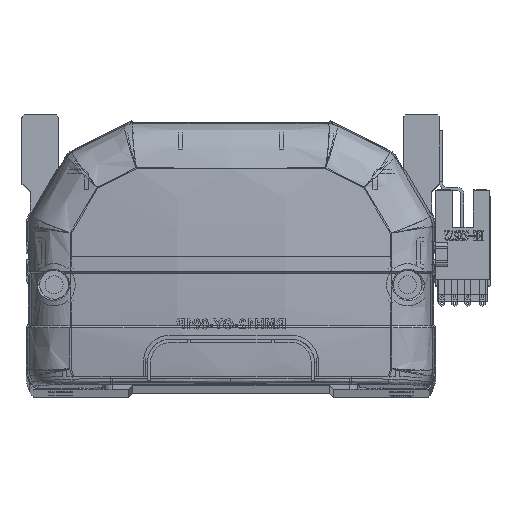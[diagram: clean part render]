
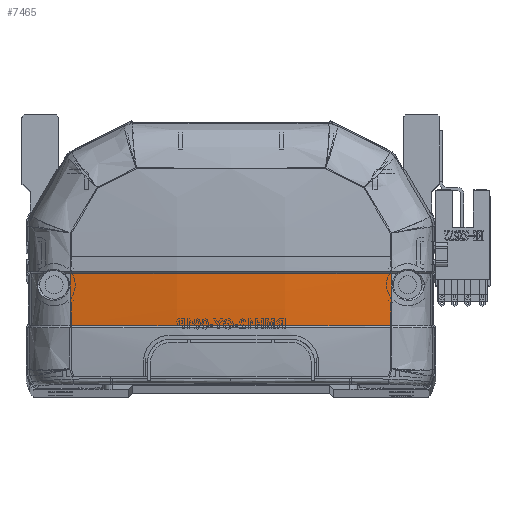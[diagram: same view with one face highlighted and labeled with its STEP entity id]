
A CAD part, top view. The second image highlights one B-rep face of the part: STEP entity #7465.
In plain terms, the highlighted free-form (B-spline) face has degree [3, 3] with [4, 4] control points.
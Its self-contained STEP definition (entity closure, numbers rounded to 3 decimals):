
#368 = ORIENTED_EDGE ( 'NONE', *, *, #58598, .T. ) ;
#923 = CARTESIAN_POINT ( 'NONE',  ( 40.461, 15.757, -5.8 ) ) ;
#1675 = CARTESIAN_POINT ( 'NONE',  ( 39.963, 28.706, -6.372 ) ) ;
#2147 = EDGE_LOOP ( 'NONE', ( #43385, #41953, #368, #2405 ) ) ;
#2405 = ORIENTED_EDGE ( 'NONE', *, *, #29316, .F. ) ;
#3555 = B_SPLINE_CURVE_WITH_KNOTS ( 'NONE', 3,
 ( #13687, #31806, #50347, #50536, #55217, #31204 ),
 .UNSPECIFIED., .F., .F.,
 ( 4, 2, 4 ),
 ( 0., 0.5, 1. ),
 .UNSPECIFIED. ) ;
#5551 = CARTESIAN_POINT ( 'NONE',  ( -26.721, 15.83, -7.624 ) ) ;
#5751 = CARTESIAN_POINT ( 'NONE',  ( -40.461, 20.111, -6.066 ) ) ;
#6141 = CARTESIAN_POINT ( 'NONE',  ( -23.389, 15.83, -7.947 ) ) ;
#6338 = CARTESIAN_POINT ( 'NONE',  ( 13.598, 15.499, -10.032 ) ) ;
#7327 = EDGE_CURVE ( 'NONE', #34295, #54720, #3555, .T. ) ;
#7465 = ADVANCED_FACE ( 'NONE', ( #20515 ), #15281, .F. ) ;
#10386 = CARTESIAN_POINT ( 'NONE',  ( -40.461, 15.757, -5.8 ) ) ;
#10991 = CARTESIAN_POINT ( 'NONE',  ( -40.461, 24.47, -6.231 ) ) ;
#11563 = CARTESIAN_POINT ( 'NONE',  ( 39.985, 15.83, -5.879 ) ) ;
#13475 = CARTESIAN_POINT ( 'NONE',  ( 39.985, 15.83, -5.879 ) ) ;
#13687 = CARTESIAN_POINT ( 'NONE',  ( -39.963, 28.706, -6.372 ) ) ;
#15265 = CARTESIAN_POINT ( 'NONE',  ( -6.692, 15.83, -8.984 ) ) ;
#15281 =( BOUNDED_SURFACE ( )  B_SPLINE_SURFACE ( 3, 3, ( 
 ( #923, #20138, #33831, #38274 ),
 ( #6338, #42507, #33227, #42893 ),
 ( #33419, #34022, #38666, #19934 ),
 ( #10386, #5751, #10991, #42691 ) ),
 .UNSPECIFIED., .F., .F., .F. ) 
 B_SPLINE_SURFACE_WITH_KNOTS ( ( 4, 4 ),
 ( 4, 4 ),
 ( 0., 1. ),
 ( 0., 1. ),
 .UNSPECIFIED. ) 
 GEOMETRIC_REPRESENTATION_ITEM ( )  RATIONAL_B_SPLINE_SURFACE ( (
 ( 1., 1., 1., 1.),
 ( 0.992, 0.992, 0.992, 0.992),
 ( 0.992, 0.992, 0.992, 0.992),
 ( 1., 1., 1., 1.) ) ) 
 REPRESENTATION_ITEM ( '' )  SURFACE ( )  );
#15789 = B_SPLINE_CURVE_WITH_KNOTS ( 'NONE', 3,
 ( #50160, #22406, #40524, #54443 ),
 .UNSPECIFIED., .F., .F.,
 ( 4, 4 ),
 ( 0., 1. ),
 .UNSPECIFIED. ) ;
#18545 = CARTESIAN_POINT ( 'NONE',  ( -39.973, 20.118, -6.142 ) ) ;
#18948 = CARTESIAN_POINT ( 'NONE',  ( -39.963, 28.706, -6.372 ) ) ;
#19934 = CARTESIAN_POINT ( 'NONE',  ( -13.598, 28.769, -10.535 ) ) ;
#20138 = CARTESIAN_POINT ( 'NONE',  ( 40.461, 20.111, -6.066 ) ) ;
#20515 = FACE_OUTER_BOUND ( 'NONE', #2147, .T. ) ;
#22406 = CARTESIAN_POINT ( 'NONE',  ( 39.973, 20.12, -6.142 ) ) ;
#23955 = CARTESIAN_POINT ( 'NONE',  ( -33.365, 15.83, -6.848 ) ) ;
#25089 = B_SPLINE_CURVE_WITH_KNOTS ( 'NONE', 3,
 ( #18948, #51378, #18545, #56041 ),
 .UNSPECIFIED., .F., .F.,
 ( 4, 4 ),
 ( 0., 1. ),
 .UNSPECIFIED. ) ;
#28767 = CARTESIAN_POINT ( 'NONE',  ( -36.679, 15.83, -6.395 ) ) ;
#29316 = EDGE_CURVE ( 'NONE', #29489, #35809, #36727, .T. ) ;
#29489 = VERTEX_POINT ( 'NONE', #11563 ) ;
#31204 = CARTESIAN_POINT ( 'NONE',  ( 39.963, 28.706, -6.372 ) ) ;
#31806 = CARTESIAN_POINT ( 'NONE',  ( -26.748, 28.706, -8.432 ) ) ;
#33227 = CARTESIAN_POINT ( 'NONE',  ( 13.598, 24.342, -10.47 ) ) ;
#33419 = CARTESIAN_POINT ( 'NONE',  ( -13.598, 15.499, -10.032 ) ) ;
#33831 = CARTESIAN_POINT ( 'NONE',  ( 40.461, 24.47, -6.231 ) ) ;
#34022 = CARTESIAN_POINT ( 'NONE',  ( -13.598, 19.918, -10.302 ) ) ;
#34295 = VERTEX_POINT ( 'NONE', #50806 ) ;
#35809 = VERTEX_POINT ( 'NONE', #58127 ) ;
#36727 = B_SPLINE_CURVE_WITH_KNOTS ( 'NONE', 3,
 ( #13475, #59701, #42299, #15265, #42098, #6141, #5551, #23955, #28767, #42886 ),
 .UNSPECIFIED., .F., .F.,
 ( 4, 2, 2, 2, 4 ),
 ( 0., 0.04, 0.06, 0.07, 0.08 ),
 .UNSPECIFIED. ) ;
#38274 = CARTESIAN_POINT ( 'NONE',  ( 40.461, 28.832, -6.296 ) ) ;
#38666 = CARTESIAN_POINT ( 'NONE',  ( -13.598, 24.342, -10.47 ) ) ;
#40524 = CARTESIAN_POINT ( 'NONE',  ( 39.966, 24.413, -6.306 ) ) ;
#41953 = ORIENTED_EDGE ( 'NONE', *, *, #7327, .F. ) ;
#42098 = CARTESIAN_POINT ( 'NONE',  ( -13.384, 15.83, -8.724 ) ) ;
#42299 = CARTESIAN_POINT ( 'NONE',  ( 13.38, 15.83, -8.984 ) ) ;
#42507 = CARTESIAN_POINT ( 'NONE',  ( 13.598, 19.918, -10.302 ) ) ;
#42691 = CARTESIAN_POINT ( 'NONE',  ( -40.461, 28.832, -6.296 ) ) ;
#42886 = CARTESIAN_POINT ( 'NONE',  ( -39.985, 15.83, -5.879 ) ) ;
#42893 = CARTESIAN_POINT ( 'NONE',  ( 13.598, 28.769, -10.535 ) ) ;
#43385 = ORIENTED_EDGE ( 'NONE', *, *, #58484, .T. ) ;
#50160 = CARTESIAN_POINT ( 'NONE',  ( 39.985, 15.83, -5.879 ) ) ;
#50347 = CARTESIAN_POINT ( 'NONE',  ( -13.373, 28.707, -9.468 ) ) ;
#50536 = CARTESIAN_POINT ( 'NONE',  ( 13.375, 28.707, -9.468 ) ) ;
#50806 = CARTESIAN_POINT ( 'NONE',  ( -39.963, 28.706, -6.372 ) ) ;
#51378 = CARTESIAN_POINT ( 'NONE',  ( -39.966, 24.412, -6.306 ) ) ;
#54443 = CARTESIAN_POINT ( 'NONE',  ( 39.963, 28.706, -6.372 ) ) ;
#54720 = VERTEX_POINT ( 'NONE', #1675 ) ;
#55217 = CARTESIAN_POINT ( 'NONE',  ( 26.749, 28.706, -8.432 ) ) ;
#56041 = CARTESIAN_POINT ( 'NONE',  ( -39.985, 15.83, -5.879 ) ) ;
#58127 = CARTESIAN_POINT ( 'NONE',  ( -39.985, 15.83, -5.879 ) ) ;
#58484 = EDGE_CURVE ( 'NONE', #29489, #54720, #15789, .T. ) ;
#58598 = EDGE_CURVE ( 'NONE', #34295, #35809, #25089, .T. ) ;
#59701 = CARTESIAN_POINT ( 'NONE',  ( 26.761, 15.83, -7.945 ) ) ;
